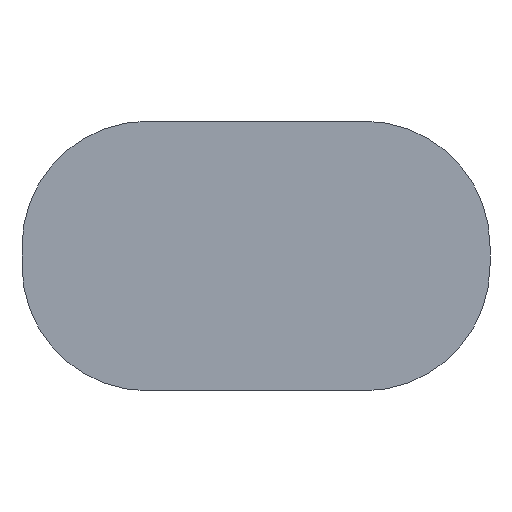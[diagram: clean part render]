
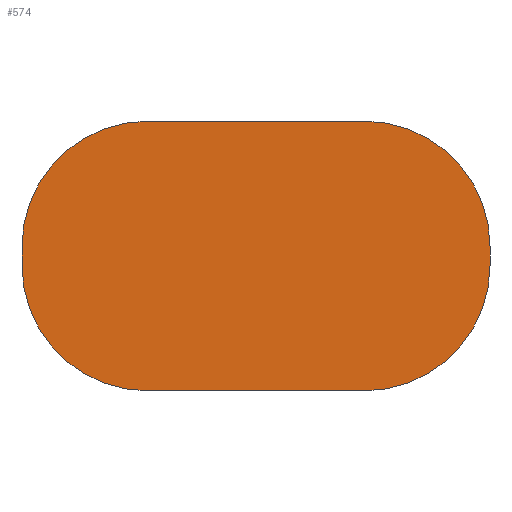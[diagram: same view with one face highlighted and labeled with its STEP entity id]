
A CAD part, left-side view. The second image highlights one B-rep face of the part: STEP entity #574.
In plain terms, the highlighted planar face has unit normal (-1, 0, 0).
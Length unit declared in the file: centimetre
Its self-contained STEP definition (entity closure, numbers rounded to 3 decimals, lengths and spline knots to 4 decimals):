
#37=CIRCLE('',#628,0.53);
#38=CIRCLE('',#630,0.53);
#39=CIRCLE('',#631,0.53);
#40=CIRCLE('',#632,0.53);
#60=FACE_OUTER_BOUND('',#93,.T.);
#93=EDGE_LOOP('',(#419,#420,#421,#422,#423,#424,#425,#426));
#141=LINE('',#910,#201);
#142=LINE('',#914,#202);
#143=LINE('',#918,#203);
#144=LINE('',#921,#204);
#201=VECTOR('',#727,1.);
#202=VECTOR('',#730,1.);
#203=VECTOR('',#733,1.);
#204=VECTOR('',#736,1.);
#263=VERTEX_POINT('',#903);
#264=VERTEX_POINT('',#905);
#265=VERTEX_POINT('',#909);
#266=VERTEX_POINT('',#911);
#267=VERTEX_POINT('',#913);
#268=VERTEX_POINT('',#915);
#269=VERTEX_POINT('',#917);
#270=VERTEX_POINT('',#919);
#325=EDGE_CURVE('',#263,#264,#37,.T.);
#326=EDGE_CURVE('',#264,#265,#141,.T.);
#327=EDGE_CURVE('',#265,#266,#38,.T.);
#328=EDGE_CURVE('',#266,#267,#142,.T.);
#329=EDGE_CURVE('',#267,#268,#39,.T.);
#330=EDGE_CURVE('',#268,#269,#143,.T.);
#331=EDGE_CURVE('',#269,#270,#40,.T.);
#332=EDGE_CURVE('',#270,#263,#144,.T.);
#419=ORIENTED_EDGE('',*,*,#325,.T.);
#420=ORIENTED_EDGE('',*,*,#326,.T.);
#421=ORIENTED_EDGE('',*,*,#327,.T.);
#422=ORIENTED_EDGE('',*,*,#328,.T.);
#423=ORIENTED_EDGE('',*,*,#329,.T.);
#424=ORIENTED_EDGE('',*,*,#330,.T.);
#425=ORIENTED_EDGE('',*,*,#331,.T.);
#426=ORIENTED_EDGE('',*,*,#332,.T.);
#553=PLANE('',#629);
#574=ADVANCED_FACE('',(#60),#553,.F.);
#628=AXIS2_PLACEMENT_3D('',#907,#723,#724);
#629=AXIS2_PLACEMENT_3D('',#908,#725,#726);
#630=AXIS2_PLACEMENT_3D('',#912,#728,#729);
#631=AXIS2_PLACEMENT_3D('',#916,#731,#732);
#632=AXIS2_PLACEMENT_3D('',#920,#734,#735);
#723=DIRECTION('center_axis',(-1.,0.,0.));
#724=DIRECTION('ref_axis',(0.,1.,0.));
#725=DIRECTION('center_axis',(1.,0.,0.));
#726=DIRECTION('ref_axis',(0.,1.,0.));
#727=DIRECTION('',(0.,0.,-1.));
#728=DIRECTION('center_axis',(-1.,0.,0.));
#729=DIRECTION('ref_axis',(0.,1.,0.));
#730=DIRECTION('',(0.,-1.,0.));
#731=DIRECTION('center_axis',(-1.,0.,0.));
#732=DIRECTION('ref_axis',(0.,1.,0.));
#733=DIRECTION('',(0.,0.,1.));
#734=DIRECTION('center_axis',(-1.,0.,0.));
#735=DIRECTION('ref_axis',(0.,1.,0.));
#736=DIRECTION('',(0.,1.,0.));
#903=CARTESIAN_POINT('',(3.28,0.46,-0.26));
#905=CARTESIAN_POINT('',(3.28,0.99,-0.79));
#907=CARTESIAN_POINT('Origin',(3.28,0.46,-0.79));
#908=CARTESIAN_POINT('Origin',(3.28,0.,-0.83));
#909=CARTESIAN_POINT('',(3.28,0.99,-0.87));
#910=CARTESIAN_POINT('',(3.28,0.99,-0.83));
#911=CARTESIAN_POINT('',(3.28,0.46,-1.4));
#912=CARTESIAN_POINT('Origin',(3.28,0.46,-0.87));
#913=CARTESIAN_POINT('',(3.28,-0.46,-1.4));
#914=CARTESIAN_POINT('',(3.28,0.,-1.4));
#915=CARTESIAN_POINT('',(3.28,-0.99,-0.87));
#916=CARTESIAN_POINT('Origin',(3.28,-0.46,-0.87));
#917=CARTESIAN_POINT('',(3.28,-0.99,-0.79));
#918=CARTESIAN_POINT('',(3.28,-0.99,-0.83));
#919=CARTESIAN_POINT('',(3.28,-0.46,-0.26));
#920=CARTESIAN_POINT('Origin',(3.28,-0.46,-0.79));
#921=CARTESIAN_POINT('',(3.28,0.,-0.26));
